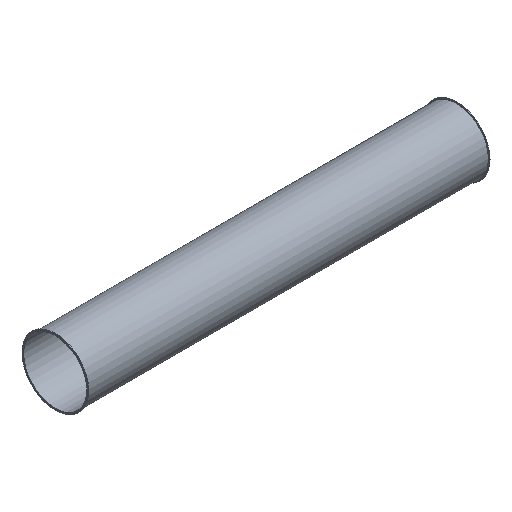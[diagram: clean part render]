
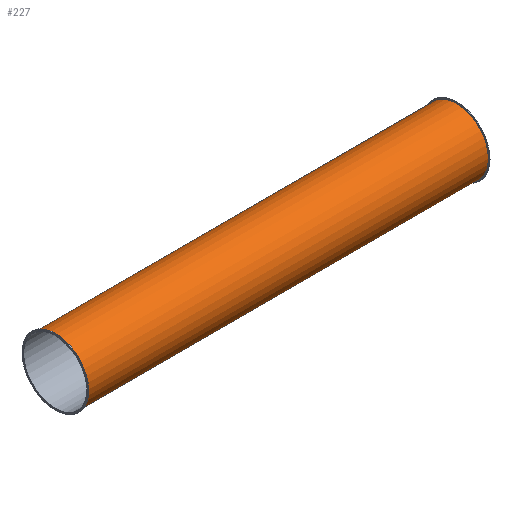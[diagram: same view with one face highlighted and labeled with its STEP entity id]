
A CAD part, isometric view. The second image highlights one B-rep face of the part: STEP entity #227.
In plain terms, the highlighted cylindrical face has radius 158 mm (diameter 316 mm), a full revolution.
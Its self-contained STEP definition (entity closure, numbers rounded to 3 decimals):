
#112=CARTESIAN_POINT('',(-31.741,2.915,0.0));
#113=VERTEX_POINT('',#112);
#114=CARTESIAN_POINT('',(-31.741,160.915,0.0));
#115=DIRECTION('',(-1.0,0.0,0.0));
#116=DIRECTION('',(0.0,-1.0,0.0));
#117=AXIS2_PLACEMENT_3D('',#114,#115,#116);
#118=CIRCLE('',#117,158.0);
#119=EDGE_CURVE('',#113,#113,#118,.T.);
#204=CARTESIAN_POINT('',(1950.259,2.915,0.0));
#205=VERTEX_POINT('',#204);
#206=CARTESIAN_POINT('',(1950.259,160.915,0.0));
#207=DIRECTION('',(-1.0,0.0,0.0));
#208=DIRECTION('',(0.0,-1.0,0.0));
#209=AXIS2_PLACEMENT_3D('',#206,#207,#208);
#210=CIRCLE('',#209,158.);
#211=EDGE_CURVE('',#205,#205,#210,.T.);
#216=CARTESIAN_POINT('',(959.259,160.915,0.0));
#217=DIRECTION('',(-1.0,0.,0.0));
#218=DIRECTION('',(0.0,-1.0,0.0));
#219=AXIS2_PLACEMENT_3D('',#216,#217,#218);
#220=CYLINDRICAL_SURFACE('',#219,158.);
#221=ORIENTED_EDGE('',*,*,#119,.F.);
#222=EDGE_LOOP('',(#221));
#223=FACE_OUTER_BOUND('',#222,.T.);
#224=ORIENTED_EDGE('',*,*,#211,.T.);
#225=EDGE_LOOP('',(#224));
#226=FACE_BOUND('',#225,.T.);
#227=ADVANCED_FACE('',(#223,#226),#220,.T.);
